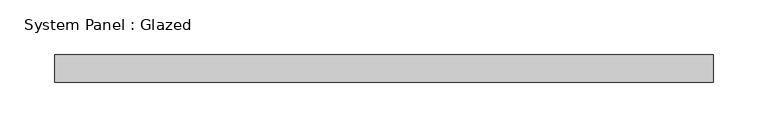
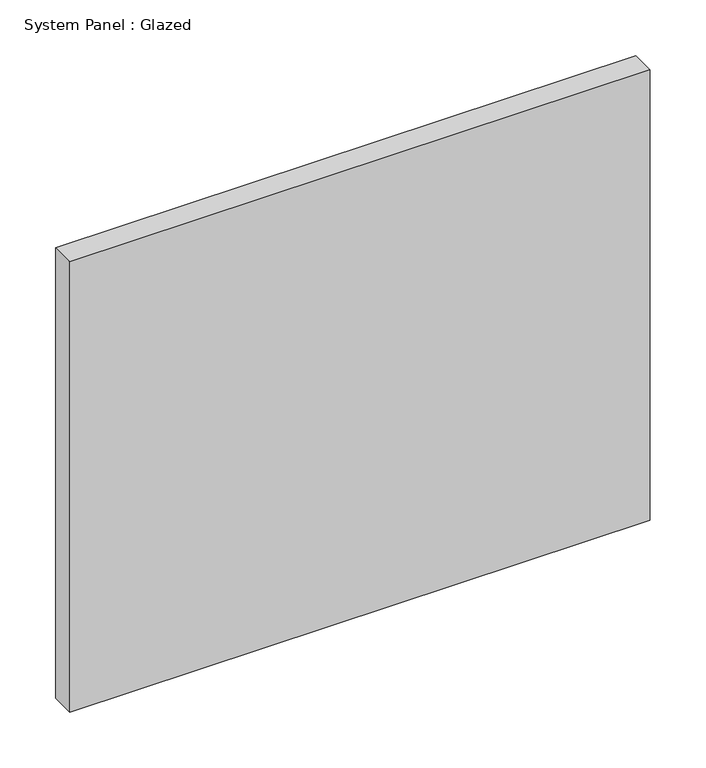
"""IFC4 building model written with IfcOpenShell, lengths in millimetres: plate geometry, System Panel : Glazed."""

from ifc_helpers import new_model, si_unit, origin, origin_with_axes, place, context, project, spatial, polyline, outline, extrude, source, transform, mapped, element, save


def system_panel_glazed_c5f65025(model_context):
    return source(origin(), model_context, "Body", "SweptSolid", [
        extrude(outline(polyline([(301.9657465, -12.7), (-301.9657465, -12.7), (-301.9657465, 12.7), (301.9657465, 12.7), (301.9657465, -12.7)])), origin_with_axes(), (0.0, 0.0, 1.0), 495.3),
    ])


if __name__ == "__main__":
    model = new_model("IFC4")
    model_context = context("Model", 3, world=origin())
    ifc_project = project(units=[si_unit("LENGTHUNIT", "METRE", prefix="MILLI")], contexts=[model_context])
    site = spatial("IfcSite", under=ifc_project)
    building = spatial("IfcBuilding", under=site)
    placement = place(None, origin())
    system_panel_glazed_shape = system_panel_glazed_c5f65025(model_context)
    element("IfcPlate", 1, ObjectType="System Panel : Glazed", at=placement, inside=building, context=model_context, shape_type="MappedRepresentation", body=[
        mapped(system_panel_glazed_shape, transform((0.0, 0.0, 0.0), x_axis=(1.0, 0.0, 0.0), y_axis=(0.0, 1.0, 0.0), z_axis=(0.0, 0.0, 1.0))),
    ])
    save(model, "model.ifc")
